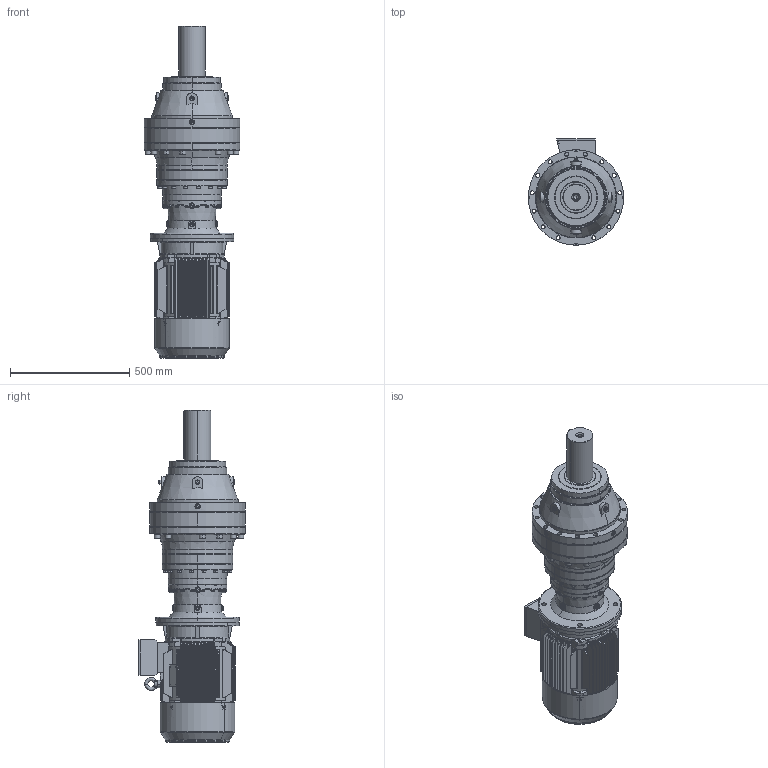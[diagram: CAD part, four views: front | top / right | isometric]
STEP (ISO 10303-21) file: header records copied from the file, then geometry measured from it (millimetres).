
FILE_DESCRIPTION (( 'STEP AP203' ), '1' );
FILE_NAME ('PVL-2703L-HS160M-4.STEP', '2019-05-24T13:21:03', ( '' ), ( '' ), 'SwSTEP 2.0', 'SolidWorks 2012', '' );
FILE_SCHEMA (( 'CONFIG_CONTROL_DESIGN' ));
Products named in the file (18): PVL-2703L-HS160M-4; M3-HS160M-FF-B5; +ª+§ªiY2-160ñ»ª­_-++ñ; M3-160M-FF-B5; Y2-160M+À+¿(B5)_-++ñ; Y2-160_shaft; +¦i-MN2-160_-++ñ; Y2-160-2ª¥--®+_-++ñ; Y2-160ñ»ª­+¿_-++ñ; Y2-160-180ñ»ª­®+_-++ñ; PNL_2703L_0_0_A16_B5_ML43A_FL12A_0_0_0_0_0_0_0_0_0_0_0_M1; Eyebolts GB_GB_FASTENER_SCREWS_FRS M12; Y2-160-4Ý¾6Ý¾8-ª+---®+_-++ñ; ML43A_Varsayìlan; 15160B5_Varsayìlan; FL12A_Varsayìlan; EK2703L_Varsayìlan; P27_Varsayìlan
Assembly tree (17 placements, depth 5):
  PVL-2703L-HS160M-4
    PNL_2703L_0_0_A16_B5_ML43A_FL12A_0_0_0_0_0_0_0_0_0_0_0_M1
      P27_Varsayìlan
      15160B5_Varsayìlan
      ML43A_Varsayìlan
      EK2703L_Varsayìlan
      FL12A_Varsayìlan
    M3-HS160M-FF-B5
      M3-160M-FF-B5
        Eyebolts GB_GB_FASTENER_SCREWS_FRS M12
        Y2-160-4Ý¾6Ý¾8-ª+---®+_-++ñ
        +¦i-MN2-160_-++ñ
        Y2-160-2ª¥--®+_-++ñ
        +ª+§ªiY2-160ñ»ª­_-++ñ
          Y2-160-180ñ»ª­®+_-++ñ
          Y2-160ñ»ª­+¿_-++ñ
        Y2-160M+À+¿(B5)_-++ñ
        Y2-160_shaft
Bounding box: 400 x 447 x 1392.5 mm (x, y, z)
Volume: 56894951.1 mm3; surface area: 4109805.5 mm2
Topology: 17 solids, 17 shells, 3469 faces, 9321 edges, 5946 vertices
Faces by surface type: plane 1465, cylinder 1302, bspline 346, cone 253, torus 63, sphere 40
Entity records: 152484 total; most frequent: CARTESIAN_POINT 66729, ORIENTED_EDGE 18374, DIRECTION 16590, EDGE_CURVE 9187, AXIS2_PLACEMENT_3D 6303, VERTEX_POINT 5931, VECTOR 3984, LINE 3984
